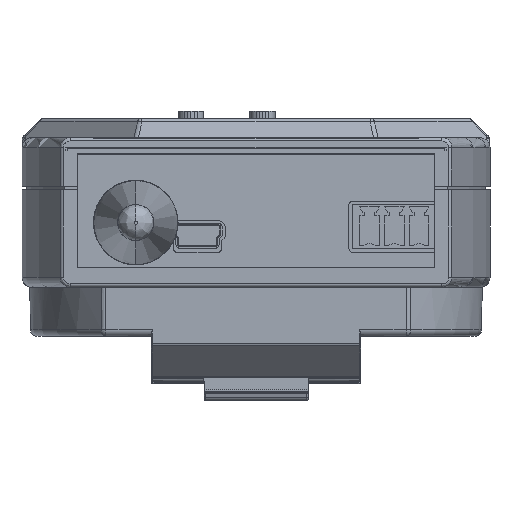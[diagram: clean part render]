
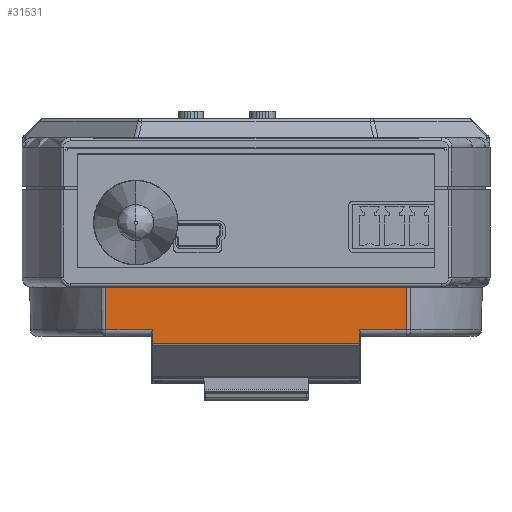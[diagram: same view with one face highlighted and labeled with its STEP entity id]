
A CAD part, front view. The second image highlights one B-rep face of the part: STEP entity #31531.
In plain terms, the highlighted planar face has unit normal (0, -1, -0.018).
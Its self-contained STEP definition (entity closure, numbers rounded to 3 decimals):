
#496=DIRECTION('',(-1.,0.,0.));
#497=VECTOR('',#496,46.287);
#498=CARTESIAN_POINT('',(23.144,-26.458,0.));
#499=LINE('',#498,#497);
#750=CARTESIAN_POINT('',(23.144,-26.458,0.));
#751=CARTESIAN_POINT('',(23.136,-26.439,-1.086));
#752=CARTESIAN_POINT('',(23.12,-26.401,-3.267));
#753=CARTESIAN_POINT('',(23.104,-26.362,-5.464));
#754=CARTESIAN_POINT('',(23.097,-26.343,-6.567));
#756=DIRECTION('',(0.,0.017,-1.));
#757=VECTOR('',#756,2.109);
#758=CARTESIAN_POINT('',(15.95,-26.343,-6.567));
#759=LINE('',#758,#757);
#760=DIRECTION('',(-1.,0.,0.));
#761=VECTOR('',#760,31.9);
#762=CARTESIAN_POINT('',(15.95,-26.306,-8.677));
#763=LINE('',#762,#761);
#764=DIRECTION('',(0.,-0.017,1.));
#765=VECTOR('',#764,2.109);
#766=CARTESIAN_POINT('',(-15.95,-26.306,-8.677));
#767=LINE('',#766,#765);
#768=CARTESIAN_POINT('',(-23.144,-26.458,0.));
#769=CARTESIAN_POINT('',(-23.136,-26.439,
-1.086));
#770=CARTESIAN_POINT('',(-23.12,-26.401,
-3.267));
#771=CARTESIAN_POINT('',(-23.104,-26.362,
-5.464));
#772=CARTESIAN_POINT('',(-23.097,-26.343,
-6.567));
#814=DIRECTION('',(1.,0.,0.));
#815=VECTOR('',#814,7.147);
#816=CARTESIAN_POINT('',(-23.097,-26.343,
-6.567));
#817=LINE('',#816,#815);
#2398=DIRECTION('',(1.,0.,0.));
#2399=VECTOR('',#2398,7.147);
#2400=CARTESIAN_POINT('',(15.95,-26.343,-6.567));
#2401=LINE('',#2400,#2399);
#24624=CARTESIAN_POINT('',(-23.097,-26.343,
-6.567));
#24626=VERTEX_POINT('',#24624);
#24643=CARTESIAN_POINT('',(23.097,-26.343,
-6.567));
#24644=VERTEX_POINT('',#24643);
#24717=CARTESIAN_POINT('',(15.95,-26.306,-8.677));
#24718=VERTEX_POINT('',#24717);
#24721=CARTESIAN_POINT('',(15.95,-26.343,-6.567));
#24722=VERTEX_POINT('',#24721);
#24821=CARTESIAN_POINT('',(-15.95,-26.306,-8.677));
#24822=CARTESIAN_POINT('',(-15.95,-26.343,-6.567));
#24823=VERTEX_POINT('',#24821);
#24824=VERTEX_POINT('',#24822);
#29173=CARTESIAN_POINT('',(23.144,-26.458,0.));
#29174=CARTESIAN_POINT('',(-23.144,-26.458,0.));
#29175=VERTEX_POINT('',#29173);
#29176=VERTEX_POINT('',#29174);
#31510=CARTESIAN_POINT('',(23.55,-26.458,0.));
#31511=DIRECTION('',(0.,-1.,-0.017));
#31512=DIRECTION('',(-1.,0.,0.));
#31513=AXIS2_PLACEMENT_3D('',#31510,#31511,#31512);
#31514=PLANE('',#31513);
#31515=ORIENTED_EDGE('',*,*,#30813,.F.);
#31517=ORIENTED_EDGE('',*,*,#31516,.T.);
#31519=ORIENTED_EDGE('',*,*,#31518,.F.);
#31521=ORIENTED_EDGE('',*,*,#31520,.T.);
#31523=ORIENTED_EDGE('',*,*,#31522,.T.);
#31525=ORIENTED_EDGE('',*,*,#31524,.T.);
#31527=ORIENTED_EDGE('',*,*,#31526,.F.);
#31528=ORIENTED_EDGE('',*,*,#31502,.F.);
#31529=EDGE_LOOP('',(#31515,#31517,#31519,#31521,#31523,#31525,#31527,#31528));
#31530=FACE_OUTER_BOUND('',#31529,.F.);
#31531=ADVANCED_FACE('',(#31530),#31514,.T.);
#755=B_SPLINE_CURVE_WITH_KNOTS('',3,(#750,#751,#752,#753,#754),.UNSPECIFIED.,
.F.,.F.,(4,1,4),(0.,0.5,1.),.UNSPECIFIED.);
#773=B_SPLINE_CURVE_WITH_KNOTS('',3,(#768,#769,#770,#771,#772),.UNSPECIFIED.,
.F.,.F.,(4,1,4),(0.,0.5,1.),.UNSPECIFIED.);
#30813=EDGE_CURVE('',#29175,#29176,#499,.T.);
#31502=EDGE_CURVE('',#29176,#24626,#773,.T.);
#31516=EDGE_CURVE('',#29175,#24644,#755,.T.);
#31518=EDGE_CURVE('',#24722,#24644,#2401,.T.);
#31520=EDGE_CURVE('',#24722,#24718,#759,.T.);
#31522=EDGE_CURVE('',#24718,#24823,#763,.T.);
#31524=EDGE_CURVE('',#24823,#24824,#767,.T.);
#31526=EDGE_CURVE('',#24626,#24824,#817,.T.);
